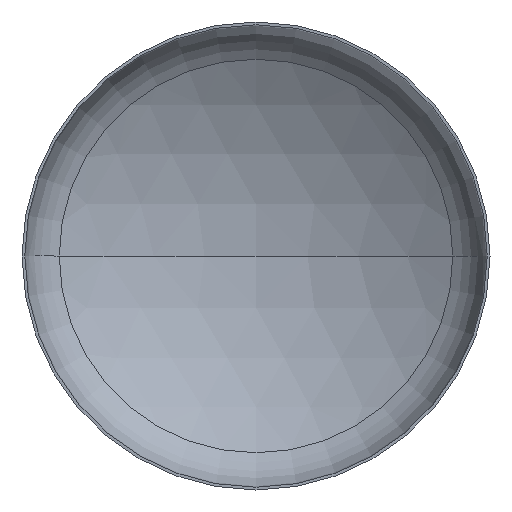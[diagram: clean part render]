
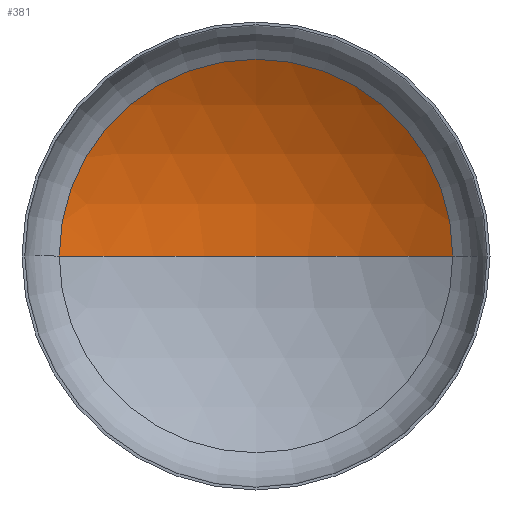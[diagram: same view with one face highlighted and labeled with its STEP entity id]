
A CAD part, front view. The second image highlights one B-rep face of the part: STEP entity #381.
In plain terms, the highlighted spherical face has radius 800 mm.
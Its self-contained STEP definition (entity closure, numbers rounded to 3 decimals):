
#4 = AXIS2_PLACEMENT_3D ( 'NONE', #87, #90, #304 ) ;
#6 = DIRECTION ( 'NONE',  ( 1., 0., 0. ) ) ;
#7 = AXIS2_PLACEMENT_3D ( 'NONE', #404, #293, #351 ) ;
#14 = AXIS2_PLACEMENT_3D ( 'NONE', #337, #129, #6 ) ;
#39 = EDGE_LOOP ( 'NONE', ( #95, #139, #82 ) ) ;
#82 = ORIENTED_EDGE ( 'NONE', *, *, #340, .T. ) ;
#87 = CARTESIAN_POINT ( 'NONE',  ( 0., -528.729, 0. ) ) ;
#90 = DIRECTION ( 'NONE',  ( 0., 0., -1. ) ) ;
#95 = ORIENTED_EDGE ( 'NONE', *, *, #353, .F. ) ;
#103 = VERTEX_POINT ( 'NONE', #286 ) ;
#129 = DIRECTION ( 'NONE',  ( 0., -1., 0. ) ) ;
#139 = ORIENTED_EDGE ( 'NONE', *, *, #377, .T. ) ;
#158 = CIRCLE ( 'NONE', #7, 800. ) ;
#159 = DIRECTION ( 'NONE',  ( 0., 0., -1. ) ) ;
#160 = VERTEX_POINT ( 'NONE', #197 ) ;
#166 = VERTEX_POINT ( 'NONE', #171 ) ;
#171 = CARTESIAN_POINT ( 'NONE',  ( 0., 271.271, 0. ) ) ;
#197 = CARTESIAN_POINT ( 'NONE',  ( -420.465, 151.865, 0. ) ) ;
#242 = FACE_OUTER_BOUND ( 'NONE', #39, .T. ) ;
#286 = CARTESIAN_POINT ( 'NONE',  ( 420.465, 151.865, 0. ) ) ;
#293 = DIRECTION ( 'NONE',  ( 0., 0., 1. ) ) ;
#304 = DIRECTION ( 'NONE',  ( -1., 0., 0. ) ) ;
#306 = SPHERICAL_SURFACE ( 'NONE', #350, 800. ) ;
#321 = CIRCLE ( 'NONE', #14, 420.465 ) ;
#337 = CARTESIAN_POINT ( 'NONE',  ( 0., 151.865, 0. ) ) ;
#340 = EDGE_CURVE ( 'NONE', #103, #160, #321, .T. ) ;
#350 = AXIS2_PLACEMENT_3D ( 'NONE', #385, #159, #403 ) ;
#351 = DIRECTION ( 'NONE',  ( 1., 0., 0. ) ) ;
#353 = EDGE_CURVE ( 'NONE', #166, #160, #158, .T. ) ;
#374 = CIRCLE ( 'NONE', #4, 800. ) ;
#377 = EDGE_CURVE ( 'NONE', #166, #103, #374, .T. ) ;
#381 = ADVANCED_FACE ( 'NONE', ( #242 ), #306, .F. ) ;
#385 = CARTESIAN_POINT ( 'NONE',  ( 0., -528.729, 0. ) ) ;
#403 = DIRECTION ( 'NONE',  ( -1., 0., 0. ) ) ;
#404 = CARTESIAN_POINT ( 'NONE',  ( 0., -528.729, 0. ) ) ;
